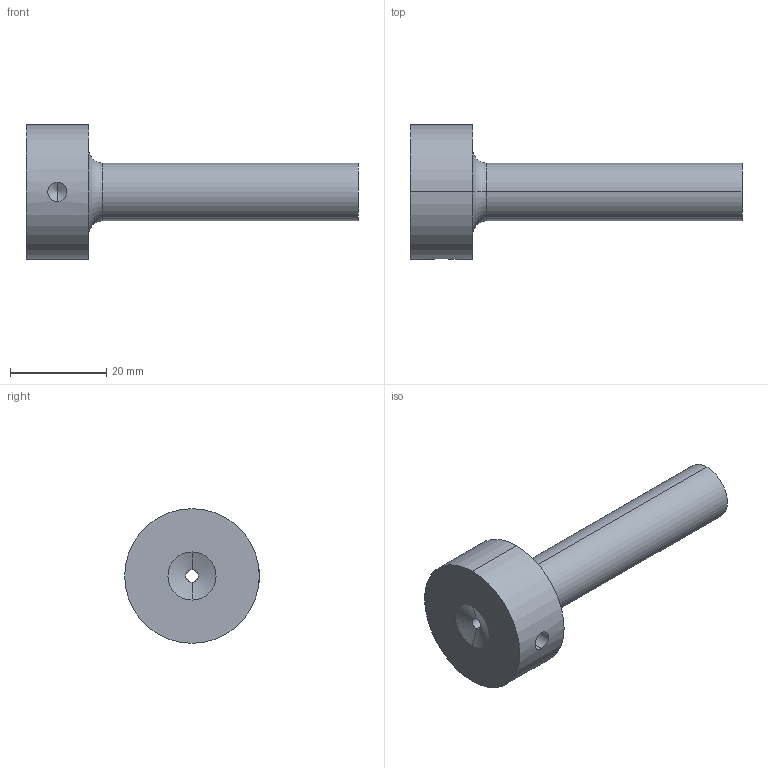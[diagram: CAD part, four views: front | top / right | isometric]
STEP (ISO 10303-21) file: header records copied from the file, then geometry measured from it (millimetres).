
FILE_DESCRIPTION (( 'STEP AP214' ), '1' );
FILE_NAME ('BR511 12X56X2,5X40.STEP', '2019-12-11T08:21:19', ( 'August' ), ( '' ), 'SwSTEP 2.0', 'SolidWorks 2018', '' );
FILE_SCHEMA (( 'AUTOMOTIVE_DESIGN' ));
Length unit declared in the file: millimetre
Products named in the file (1): BR511 12X56X2,5X40
Bounding box: 69 x 28 x 28 mm (x, y, z)
Volume: 13530.8 mm3; surface area: 5291.6 mm2
Topology: 1 solids, 1 shells, 17 faces, 36 edges, 21 vertices
Faces by surface type: cylinder 6, cone 4, torus 4, plane 3
Entity records: 538 total; most frequent: CARTESIAN_POINT 127, DIRECTION 90, ORIENTED_EDGE 68, AXIS2_PLACEMENT_3D 40, EDGE_CURVE 34, CIRCLE 22, VERTEX_POINT 21, EDGE_LOOP 21
